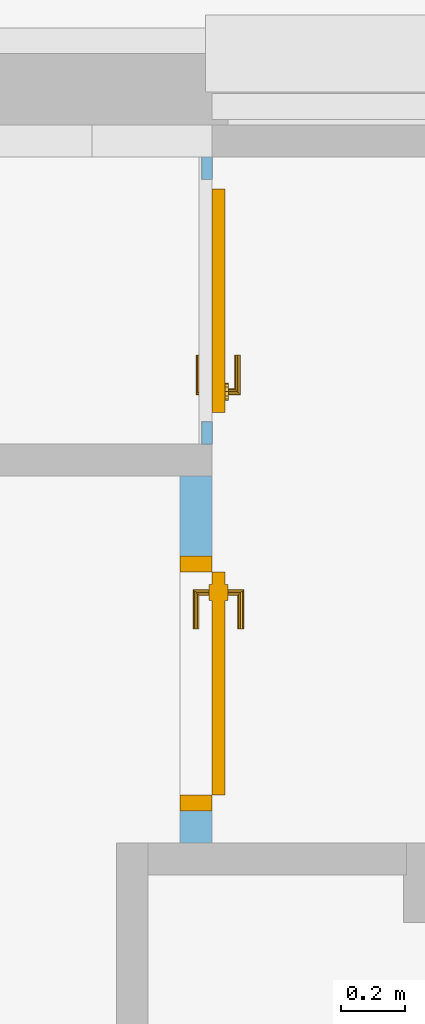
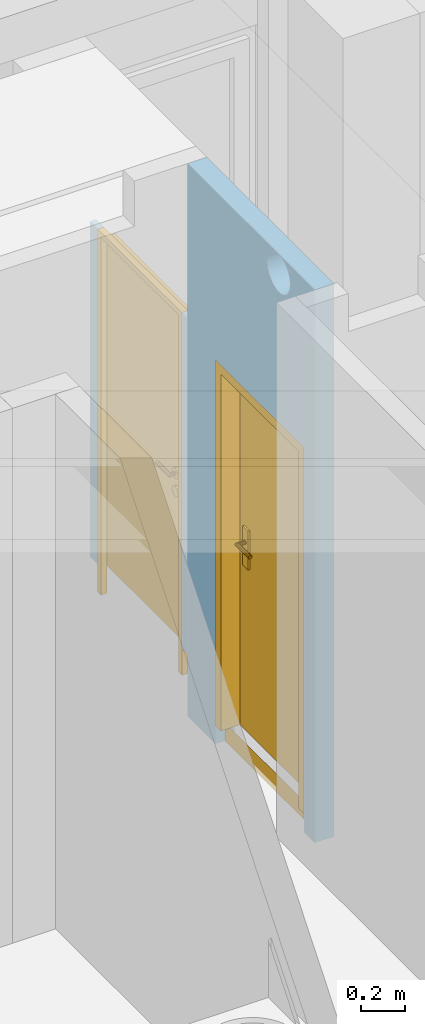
# One storey, part 66 of 84: 2 doors, 3 openings, plus 2 elements that do not belong to this part.
"""IFC4 building model written with IfcOpenShell, lengths in metres."""

from ifc_helpers import new_model, entity, si_unit, converted_unit, derived_unit, frame, frame_2d, origin, origin_with_axes, place, context, subcontext, project, spatial, polyline, rectangle, outline, extrude, closed_shell, open_shell, surface_model, source, transform, mapped, material, layer, layer_set, layer_usage, type_object, element, fill, save


model = new_model("IFC4")

# Units and contexts
model_context = context("Model", 3, precision=1e-05, world=origin())
body_context = subcontext(model_context, "Body", "Model", "MODEL_VIEW")
ifc_project = project(units=[si_unit("LENGTHUNIT", "METRE"), si_unit("AREAUNIT", "SQUARE_METRE"), si_unit("VOLUMEUNIT", "CUBIC_METRE"), si_unit("MASSUNIT", "GRAM", prefix="KILO"), converted_unit("PLANEANGLEUNIT", "DEGREE", entity("IfcPlaneAngleMeasure", 0.0174532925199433), si_unit("PLANEANGLEUNIT", "RADIAN"), dimensions=[0, 0, 0, 0, 0, 0, 0]), derived_unit("THERMALTRANSMITTANCEUNIT", [(si_unit("POWERUNIT", "WATT"), 1), (si_unit("THERMODYNAMICTEMPERATUREUNIT", "KELVIN"), -1), (si_unit("LENGTHUNIT", "METRE"), -2)]), derived_unit("VOLUMETRICFLOWRATEUNIT", [(si_unit("LENGTHUNIT", "METRE"), 3), (converted_unit("TIMEUNIT", "hour", entity("IfcTimeMeasure", 3600.0), si_unit("TIMEUNIT", "SECOND"), dimensions=[0, 0, 1, 0, 0, 0, 0]), -1), (si_unit("LENGTHUNIT", "METRE"), -1)])], contexts=[model_context])

# Site, building, storey
site_placement = place(None, origin())
site = spatial("IfcSite", under=ifc_project, at=site_placement, Name="3. ASŘ", CompositionType="ELEMENT")
building_placement = place(site_placement, origin())
building = spatial("IfcBuilding", under=site, at=building_placement, Name="Pavilon C", CompositionType="ELEMENT")
storey_placement = place(building_placement, frame((0.0, 0.0, -3.3)))
storey = spatial("IfcBuildingStorey", under=building, at=storey_placement, Name="Půdorys 1.PP", CompositionType="ELEMENT", Elevation=-3.3)

# Wall, opening, door
ifc_material_1 = material()
ifc_layer_1 = layer(ifc_material_1, 0.032)
ifc_layer_set_1 = layer_set([ifc_layer_1])
ifc_layer_usage_1 = layer_usage(ifc_layer_set_1, "AXIS2", "POSITIVE", 0.0)
wall_1_placement = place(storey_placement, frame((22.8, 14.0, 0.15), z_axis=(0.0, 0.0, 1.0), x_axis=(0.0, 1.0, 0.0)))
wall_1 = element("IfcWall", 1, at=wall_1_placement, inside=storey, material=ifc_layer_usage_1, Name="SANITARNÍ PŘÍČKA", context=body_context, shape_type="SweptSolid", body=[
    extrude(rectangle(XDim=0.9, YDim=0.032, at=frame_2d((0.45, 0.016), x_axis=(1.0, 0.0))), origin_with_axes(), (0.0, 0.0, 1.0), 1.85),
])
opening_1_placement = place(wall_1_placement, frame((0.0699999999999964, 0.0, -0.15), z_axis=(0.0, 1.0, 0.0), x_axis=(0.0, 0.0, 1.0)))
opening_1 = element("IfcOpeningElement", 2, at=opening_1_placement, cuts=wall_1, Name="Dveřní otvor", ObjectType="Opening", context=body_context, shape_type="SweptSolid", body=[
    extrude(outline(polyline([(0.0, 0.76), (2.0, 0.76), (2.0, 0.0), (0.0, 0.0), (0.0, 0.76)])), origin_with_axes(), (0.0, 0.0, 1.0), 0.032),
])
door_type_1 = type_object("IfcDoorType", Name="SMT", OperationType="NOTDEFINED", ParameterTakesPrecedence=False, PredefinedType="DOOR")
shared_shape_1 = source(origin_with_axes(), body_context, "Body", "SurfaceModel", [
    surface_model("IfcShellBasedSurfaceModel", [(0.0, 0.122, 2.0), (0.0, 0.122, -1.95943487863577e-18), (0.03, 0.122, -1.95943487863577e-18), (0.03, 0.122, 2.0), (0.0, 0.0899999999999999, 1.95943487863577e-18), (0.0, 0.0900000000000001, 2.0), (0.03, 0.0900000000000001, 2.0), (0.03, 0.0899999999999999, 1.95943487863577e-18)], [closed_shell([[[0, 1, 2, 3]], [[4, 5, 6, 7]], [[1, 0, 5, 4]], [[2, 1, 4, 7]], [[3, 2, 7, 6]], [[0, 3, 6, 5]]], orient=[[False], [False], [False], [False], [False], [False]])]),
    surface_model("IfcShellBasedSurfaceModel", [(0.73, 0.122, 2.0), (0.73, 0.122, -1.95943487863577e-18), (0.76, 0.122, -1.95943487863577e-18), (0.76, 0.122, 2.0), (0.73, 0.0899999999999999, 1.95943487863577e-18), (0.73, 0.0900000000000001, 2.0), (0.76, 0.0900000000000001, 2.0), (0.76, 0.0899999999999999, 1.95943487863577e-18)], [closed_shell([[[0, 1, 2, 3]], [[4, 5, 6, 7]], [[1, 0, 5, 4]], [[2, 1, 4, 7]], [[3, 2, 7, 6]], [[0, 3, 6, 5]]], orient=[[False], [False], [False], [False], [False], [False]])]),
    surface_model("IfcShellBasedSurfaceModel", [(0.03, 0.122, 2.0), (0.03, 0.122, 1.97), (0.73, 0.122, 1.97), (0.73, 0.122, 2.0), (0.03, 0.0900000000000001, 1.97), (0.03, 0.0900000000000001, 2.0), (0.73, 0.0900000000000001, 2.0), (0.73, 0.0900000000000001, 1.97)], [closed_shell([[[0, 1, 2, 3]], [[4, 5, 6, 7]], [[1, 0, 5, 4]], [[2, 1, 4, 7]], [[3, 2, 7, 6]], [[0, 3, 6, 5]]], orient=[[False], [False], [False], [False], [False], [False]])]),
    surface_model("IfcShellBasedSurfaceModel", [(0.03, 0.0900000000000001, 1.97), (0.03, 0.0899999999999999, 0.15), (0.73, 0.0899999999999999, 0.15), (0.73, 0.0900000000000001, 1.97), (0.03, 0.0499999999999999, 0.15), (0.03, 0.0500000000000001, 1.97), (0.73, 0.0500000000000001, 1.97), (0.73, 0.0499999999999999, 0.15)], [closed_shell([[[0, 1, 2, 3]], [[4, 5, 6, 7]], [[1, 0, 5, 4]], [[2, 1, 4, 7]], [[3, 2, 7, 6]], [[0, 3, 6, 5]]], orient=[[False], [False], [False], [False], [False], [False]])]),
    surface_model("IfcShellBasedSurfaceModel", [(0.688815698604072, 0.05, 0.93625), (0.6925, 0.05, 0.95), (0.688815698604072, 0.05, 0.96375), (0.67875, 0.05, 0.973815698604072), (0.665, 0.05, 0.9775), (0.65125, 0.05, 0.973815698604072), (0.641184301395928, 0.05, 0.96375), (0.6375, 0.05, 0.95), (0.641184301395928, 0.05, 0.93625), (0.65125, 0.05, 0.926184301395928), (0.665, 0.05, 0.9225), (0.67875, 0.05, 0.926184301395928), (0.6925, 0.0375, 0.95), (0.688815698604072, 0.0375, 0.93625), (0.67875, 0.0375, 0.926184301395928), (0.665, 0.0375, 0.9225), (0.65125, 0.0375, 0.926184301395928), (0.641184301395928, 0.0375, 0.93625), (0.6375, 0.0375, 0.95), (0.641184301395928, 0.0375, 0.96375), (0.65125, 0.0375, 0.973815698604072), (0.665, 0.0375, 0.9775), (0.67875, 0.0375, 0.973815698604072), (0.688815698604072, 0.0375, 0.96375)], [closed_shell([[[0, 1, 2, 3, 4, 5, 6, 7, 8, 9, 10, 11]], [[12, 13, 14, 15, 16, 17, 18, 19, 20, 21, 22, 23]], [[1, 0, 13, 12]], [[2, 1, 12, 23]], [[3, 2, 23, 22]], [[4, 3, 22, 21]], [[5, 4, 21, 20]], [[6, 5, 20, 19]], [[7, 6, 19, 18]], [[8, 7, 18, 17]], [[9, 8, 17, 16]], [[10, 9, 16, 15]], [[11, 10, 15, 14]], [[0, 11, 14, 13]]], orient=[[False], [False], [False], [False], [False], [False], [False], [False], [False], [False], [False], [False], [False], [False]])]),
    surface_model("IfcShellBasedSurfaceModel", [(0.688815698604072, 0.05, 1.03625), (0.6925, 0.05, 1.05), (0.688815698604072, 0.05, 1.06375), (0.67875, 0.05, 1.07381569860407), (0.665, 0.05, 1.0775), (0.65125, 0.05, 1.07381569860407), (0.641184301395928, 0.05, 1.06375), (0.6375, 0.05, 1.05), (0.641184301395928, 0.05, 1.03625), (0.65125, 0.05, 1.02618430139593), (0.665, 0.05, 1.0225), (0.67875, 0.05, 1.02618430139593), (0.6925, 0.0375, 1.05), (0.688815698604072, 0.0375, 1.03625), (0.67875, 0.0375, 1.02618430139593), (0.665, 0.0375, 1.0225), (0.65125, 0.0375, 1.02618430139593), (0.641184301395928, 0.0375, 1.03625), (0.6375, 0.0375, 1.05), (0.641184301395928, 0.0375, 1.06375), (0.65125, 0.0375, 1.07381569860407), (0.665, 0.0375, 1.0775), (0.67875, 0.0375, 1.07381569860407), (0.688815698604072, 0.0375, 1.06375)], [closed_shell([[[0, 1, 2, 3, 4, 5, 6, 7, 8, 9, 10, 11]], [[12, 13, 14, 15, 16, 17, 18, 19, 20, 21, 22, 23]], [[1, 0, 13, 12]], [[2, 1, 12, 23]], [[3, 2, 23, 22]], [[4, 3, 22, 21]], [[5, 4, 21, 20]], [[6, 5, 20, 19]], [[7, 6, 19, 18]], [[8, 7, 18, 17]], [[9, 8, 17, 16]], [[10, 9, 16, 15]], [[11, 10, 15, 14]], [[0, 11, 14, 13]]], orient=[[False], [False], [False], [False], [False], [False], [False], [False], [False], [False], [False], [False], [False], [False]])]),
    surface_model("IfcShellBasedSurfaceModel", [(0.665, 0.05, 1.06), (0.66, 0.05, 1.05866025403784), (0.656339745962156, 0.05, 1.055), (0.655, 0.05, 1.05), (0.656339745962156, 0.05, 1.045), (0.66, 0.05, 1.04133974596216), (0.665, 0.05, 1.04), (0.67, 0.05, 1.04133974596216), (0.673660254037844, 0.05, 1.045), (0.675, 0.05, 1.05), (0.673660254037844, 0.05, 1.055), (0.67, 0.05, 1.05866025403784), (0.67, 0.005, 1.05866025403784), (0.665, 0.01, 1.06), (0.673660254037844, 0.00133974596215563, 1.055), (0.675, 1.4210854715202e-17, 1.05), (0.673660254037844, 0.00133974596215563, 1.045), (0.67, 0.005, 1.04133974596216), (0.665, 0.01, 1.04), (0.66, 0.015, 1.04133974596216), (0.656339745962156, 0.0186602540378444, 1.045), (0.655, 0.02, 1.05), (0.656339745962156, 0.0186602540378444, 1.055), (0.66, 0.015, 1.05866025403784), (0.55, 0.005, 1.05866025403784), (0.55, 0.01, 1.06), (0.55, 0.00133974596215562, 1.055), (0.55, 0.0, 1.05), (0.55, 0.00133974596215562, 1.045), (0.55, 0.005, 1.04133974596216), (0.55, 0.01, 1.04), (0.55, 0.015, 1.04133974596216), (0.55, 0.0186602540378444, 1.045), (0.55, 0.02, 1.05), (0.55, 0.0186602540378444, 1.055), (0.55, 0.015, 1.05866025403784)], [open_shell([[[0, 1, 2, 3, 4, 5, 6, 7, 8, 9, 10, 11]], [[0, 11, 12, 13]], [[11, 10, 14, 12]], [[10, 9, 15, 14]], [[9, 8, 16, 15]], [[8, 7, 17, 16]], [[7, 6, 18, 17]], [[6, 5, 19, 18]], [[5, 4, 20, 19]], [[4, 3, 21, 20]], [[3, 2, 22, 21]], [[2, 1, 23, 22]], [[1, 0, 13, 23]], [[13, 12, 24, 25]], [[12, 14, 26, 24]], [[14, 15, 27, 26]], [[15, 16, 28, 27]], [[16, 17, 29, 28]], [[17, 18, 30, 29]], [[18, 19, 31, 30]], [[19, 20, 32, 31]], [[20, 21, 33, 32]], [[21, 22, 34, 33]], [[22, 23, 35, 34]], [[23, 13, 25, 35]]], orient=[[False], [False], [False], [False], [False], [False], [False], [False], [False], [False], [False], [False], [False], [False], [False], [False], [False], [False], [False], [False], [False], [False], [False], [False], [False]])]),
    surface_model("IfcShellBasedSurfaceModel", [(0.688815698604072, 0.09, 0.93625), (0.67875, 0.09, 0.926184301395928), (0.665, 0.09, 0.9225), (0.65125, 0.09, 0.926184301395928), (0.641184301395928, 0.09, 0.93625), (0.6375, 0.09, 0.95), (0.641184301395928, 0.09, 0.96375), (0.65125, 0.09, 0.973815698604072), (0.665, 0.09, 0.9775), (0.67875, 0.09, 0.973815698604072), (0.688815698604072, 0.09, 0.96375), (0.6925, 0.09, 0.95), (0.6925, 0.1025, 0.95), (0.688815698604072, 0.1025, 0.96375), (0.67875, 0.1025, 0.973815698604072), (0.665, 0.1025, 0.9775), (0.65125, 0.1025, 0.973815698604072), (0.641184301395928, 0.1025, 0.96375), (0.6375, 0.1025, 0.95), (0.641184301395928, 0.1025, 0.93625), (0.65125, 0.1025, 0.926184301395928), (0.665, 0.1025, 0.9225), (0.67875, 0.1025, 0.926184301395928), (0.688815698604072, 0.1025, 0.93625)], [closed_shell([[[0, 1, 2, 3, 4, 5, 6, 7, 8, 9, 10, 11]], [[12, 13, 14, 15, 16, 17, 18, 19, 20, 21, 22, 23]], [[11, 12, 23, 0]], [[10, 13, 12, 11]], [[9, 14, 13, 10]], [[8, 15, 14, 9]], [[7, 16, 15, 8]], [[6, 17, 16, 7]], [[5, 18, 17, 6]], [[4, 19, 18, 5]], [[3, 20, 19, 4]], [[2, 21, 20, 3]], [[1, 22, 21, 2]], [[0, 23, 22, 1]]], orient=[[False], [False], [False], [False], [False], [False], [False], [False], [False], [False], [False], [False], [False], [False]])]),
    surface_model("IfcShellBasedSurfaceModel", [(0.688815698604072, 0.09, 1.03625), (0.67875, 0.09, 1.02618430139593), (0.665, 0.09, 1.0225), (0.65125, 0.09, 1.02618430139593), (0.641184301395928, 0.09, 1.03625), (0.6375, 0.09, 1.05), (0.641184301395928, 0.09, 1.06375), (0.65125, 0.09, 1.07381569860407), (0.665, 0.09, 1.0775), (0.67875, 0.09, 1.07381569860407), (0.688815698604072, 0.09, 1.06375), (0.6925, 0.09, 1.05), (0.6925, 0.1025, 1.05), (0.688815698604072, 0.1025, 1.06375), (0.67875, 0.1025, 1.07381569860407), (0.665, 0.1025, 1.0775), (0.65125, 0.1025, 1.07381569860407), (0.641184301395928, 0.1025, 1.06375), (0.6375, 0.1025, 1.05), (0.641184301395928, 0.1025, 1.03625), (0.65125, 0.1025, 1.02618430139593), (0.665, 0.1025, 1.0225), (0.67875, 0.1025, 1.02618430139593), (0.688815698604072, 0.1025, 1.03625)], [closed_shell([[[0, 1, 2, 3, 4, 5, 6, 7, 8, 9, 10, 11]], [[12, 13, 14, 15, 16, 17, 18, 19, 20, 21, 22, 23]], [[11, 12, 23, 0]], [[10, 13, 12, 11]], [[9, 14, 13, 10]], [[8, 15, 14, 9]], [[7, 16, 15, 8]], [[6, 17, 16, 7]], [[5, 18, 17, 6]], [[4, 19, 18, 5]], [[3, 20, 19, 4]], [[2, 21, 20, 3]], [[1, 22, 21, 2]], [[0, 23, 22, 1]]], orient=[[False], [False], [False], [False], [False], [False], [False], [False], [False], [False], [False], [False], [False], [False]])]),
    surface_model("IfcShellBasedSurfaceModel", [(0.665, 0.09, 1.06), (0.67, 0.09, 1.05866025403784), (0.673660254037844, 0.09, 1.055), (0.675, 0.09, 1.05), (0.673660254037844, 0.09, 1.045), (0.67, 0.09, 1.04133974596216), (0.665, 0.09, 1.04), (0.66, 0.09, 1.04133974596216), (0.656339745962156, 0.09, 1.045), (0.655, 0.09, 1.05), (0.656339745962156, 0.09, 1.055), (0.66, 0.09, 1.05866025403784), (0.665, 0.13, 1.06), (0.67, 0.135, 1.05866025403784), (0.673660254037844, 0.138660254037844, 1.055), (0.675, 0.14, 1.05), (0.673660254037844, 0.138660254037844, 1.045), (0.67, 0.135, 1.04133974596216), (0.665, 0.13, 1.04), (0.66, 0.125, 1.04133974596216), (0.656339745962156, 0.121339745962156, 1.045), (0.655, 0.12, 1.05), (0.656339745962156, 0.121339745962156, 1.055), (0.66, 0.125, 1.05866025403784), (0.55, 0.13, 1.06), (0.55, 0.135, 1.05866025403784), (0.55, 0.138660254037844, 1.055), (0.55, 0.14, 1.05), (0.55, 0.138660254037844, 1.045), (0.55, 0.135, 1.04133974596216), (0.55, 0.13, 1.04), (0.55, 0.125, 1.04133974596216), (0.55, 0.121339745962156, 1.045), (0.55, 0.12, 1.05), (0.55, 0.121339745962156, 1.055), (0.55, 0.125, 1.05866025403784)], [open_shell([[[0, 1, 2, 3, 4, 5, 6, 7, 8, 9, 10, 11]], [[0, 12, 13, 1]], [[1, 13, 14, 2]], [[2, 14, 15, 3]], [[3, 15, 16, 4]], [[4, 16, 17, 5]], [[5, 17, 18, 6]], [[6, 18, 19, 7]], [[7, 19, 20, 8]], [[8, 20, 21, 9]], [[9, 21, 22, 10]], [[10, 22, 23, 11]], [[11, 23, 12, 0]], [[12, 24, 25, 13]], [[13, 25, 26, 14]], [[14, 26, 27, 15]], [[15, 27, 28, 16]], [[16, 28, 29, 17]], [[17, 29, 30, 18]], [[18, 30, 31, 19]], [[19, 31, 32, 20]], [[20, 32, 33, 21]], [[21, 33, 34, 22]], [[22, 34, 35, 23]], [[23, 35, 24, 12]]], orient=[[False], [False], [False], [False], [False], [False], [False], [False], [False], [False], [False], [False], [False], [False], [False], [False], [False], [False], [False], [False], [False], [False], [False], [False], [False]])]),
])
door_1_placement = place(opening_1_placement, frame((0.0, 0.759999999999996, -0.0899999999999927), z_axis=(1.0, 0.0, 0.0), x_axis=(0.0, -1.0, 1.22464679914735e-16)))
door_1 = element("IfcDoor", 3, at=door_1_placement, inside=storey, type_object=door_type_1, Name="SMT", OverallHeight=2.0, OverallWidth=0.76, context=body_context, shape_type="MappedRepresentation", body=[
    mapped(shared_shape_1, transform((0.0, 0.0, 0.0), x_axis=(1.0, 0.0, 0.0), y_axis=(0.0, -1.0, 0.0), z_axis=(0.0, 0.0, 1.0), scale=1.0)),
])
fill(opening_1, door_1)

# Wall, openings, door
ifc_material_2 = material(Name="SDK - 1 KCE + DVOJITÉ OPLÁŠTĚNÍ")
ifc_layer_2 = layer(ifc_material_2, 0.1)
ifc_layer_set_2 = layer_set([ifc_layer_2])
ifc_layer_usage_2 = layer_usage(ifc_layer_set_2, "AXIS2", "POSITIVE", 0.0)
wall_2_placement = place(storey_placement, frame((22.7, 13.9, -0.1), z_axis=(0.0, 0.0, 1.0), x_axis=(0.0, -1.0, 0.0)))
wall_2 = element("IfcWall", 4, at=wall_2_placement, inside=storey, material=ifc_layer_usage_2, Name="SDK - 1 KCE + DVOJITÉ OPLÁŠTĚNÍ", context=body_context, shape_type="SweptSolid", body=[
    extrude(rectangle(XDim=1.15, YDim=0.1, at=frame_2d((0.574999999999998, 0.05), x_axis=(1.0, 0.0))), origin_with_axes(), (0.0, 0.0, 1.0), 3.05),
])
opening_2_placement = place(wall_2_placement, frame((1.05, 0.1, 0.0), z_axis=(0.0, -1.0, 0.0), x_axis=(0.0, 0.0, 1.0)))
opening_2 = element("IfcOpeningElement", 5, at=opening_2_placement, cuts=wall_2, Name="Dveřní otvor", ObjectType="Opening", context=body_context, shape_type="SweptSolid", body=[
    extrude(outline(polyline([(0.0, 0.8), (2.12, 0.8), (2.12, 0.0), (0.0, 0.0), (0.0, 0.8)])), origin_with_axes(), (0.0, 0.0, 1.0), 0.1),
])
opening_3_placement = place(wall_2_placement, frame((0.718690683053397, 0.0, 2.84), z_axis=(0.0, 1.0, 0.0), x_axis=(0.0, 0.0, 1.0)))
element("IfcOpeningElement", 6, at=opening_3_placement, cuts=wall_2, Name="VZT", ObjectType="Opening", context=body_context, shape_type="SweptSolid", body=[
    extrude(outline(polyline([(0.10499997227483, 0.0), (0.0940244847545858, 0.000575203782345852), (0.0831692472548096, 0.00229450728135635), (0.072553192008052, 0.00513907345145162), (0.0622926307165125, 0.00907773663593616), (0.0524999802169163, 0.0140673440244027), (0.043282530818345, 0.0200532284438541), (0.0347412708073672, 0.0269698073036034), (0.0269697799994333, 0.0347413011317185), (0.0200532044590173, 0.0432825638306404), (0.0140673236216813, 0.0525000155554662), (0.00907772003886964, 0.0622926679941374), (0.00513906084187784, 0.0725532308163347), (0.00229449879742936, 0.0831692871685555), (0.000575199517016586, 0.0940245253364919), (0.0, 0.105000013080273), (0.000575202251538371, 0.115975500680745), (0.00229450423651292, 0.12683073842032), (0.00513906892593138, 0.137446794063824), (0.00907773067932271, 0.147707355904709), (0.0140673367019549, 0.157500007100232), (0.0200532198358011, 0.166717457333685), (0.0269697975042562, 0.175258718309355), (0.0347412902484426, 0.183030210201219), (0.0432825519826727, 0.189946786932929), (0.0525000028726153, 0.195932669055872), (0.0622926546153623, 0.200922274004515), (0.072553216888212, 0.204860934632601), (0.0831692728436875, 0.207705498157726), (0.0940245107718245, 0.209424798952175), (0.104999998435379, 0.21), (0.115975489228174, 0.209424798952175), (0.126830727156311, 0.207705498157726), (0.137446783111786, 0.204860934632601), (0.147707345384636, 0.200922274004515), (0.157499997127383, 0.195932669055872), (0.166717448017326, 0.189946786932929), (0.175258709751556, 0.183030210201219), (0.183030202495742, 0.175258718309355), (0.189946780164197, 0.166717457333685), (0.195932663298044, 0.157500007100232), (0.200922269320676, 0.147707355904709), (0.204860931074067, 0.137446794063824), (0.207705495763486, 0.12683073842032), (0.20942479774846, 0.115975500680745), (0.209999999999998, 0.105000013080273), (0.209424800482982, 0.0940245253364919), (0.207705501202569, 0.0831692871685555), (0.204860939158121, 0.0725532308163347), (0.200922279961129, 0.0622926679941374), (0.195932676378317, 0.0525000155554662), (0.189946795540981, 0.0432825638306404), (0.183030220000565, 0.0347413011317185), (0.175258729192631, 0.0269698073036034), (0.166717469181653, 0.0200532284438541), (0.157500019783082, 0.0140673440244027), (0.147707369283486, 0.00907773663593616), (0.137446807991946, 0.00513907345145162), (0.126830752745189, 0.00229450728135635), (0.115975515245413, 0.000575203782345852), (0.10499997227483, 0.0)])), origin_with_axes(), (0.0, 0.0, 1.0), 0.1),
])
door_type_2 = type_object("IfcDoorType", Name="I.D011", OperationType="NOTDEFINED", ParameterTakesPrecedence=False, PredefinedType="DOOR")
shared_shape_2 = source(origin_with_axes(), body_context, "Body", "SurfaceModel", [
    surface_model("IfcShellBasedSurfaceModel", [(0.0, 0.05, 0.0), (0.8, 0.05, 0.0), (0.8, 0.05, 0.1), (0.0, 0.05, 0.1)], [open_shell([[[0, 1, 2, 3]]], orient=[[False]])]),
    surface_model("IfcShellBasedSurfaceModel", [(0.0, 0.1, 2.12), (0.0, 0.1, 0.101), (0.05, 0.1, 0.101), (0.05, 0.1, 2.12), (0.0, 0.0, 0.101), (0.0, 2.41584530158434e-16, 2.12), (0.05, 2.41584530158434e-16, 2.12), (0.05, 0.0, 0.101)], [closed_shell([[[0, 1, 2, 3]], [[4, 5, 6, 7]], [[1, 0, 5, 4]], [[2, 1, 4, 7]], [[3, 2, 7, 6]], [[0, 3, 6, 5]]], orient=[[False], [False], [False], [False], [False], [False]])]),
    surface_model("IfcShellBasedSurfaceModel", [(0.75, 0.1, 2.12), (0.75, 0.1, 0.101), (0.8, 0.1, 0.101), (0.8, 0.1, 2.12), (0.75, 0.0, 0.101), (0.75, 2.41584530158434e-16, 2.12), (0.8, 2.41584530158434e-16, 2.12), (0.8, 0.0, 0.101)], [closed_shell([[[0, 1, 2, 3]], [[4, 5, 6, 7]], [[1, 0, 5, 4]], [[2, 1, 4, 7]], [[3, 2, 7, 6]], [[0, 3, 6, 5]]], orient=[[False], [False], [False], [False], [False], [False]])]),
    surface_model("IfcShellBasedSurfaceModel", [(0.05, 0.1, 2.12), (0.05, 0.1, 2.07), (0.75, 0.1, 2.07), (0.75, 0.1, 2.12), (0.05, 2.41584530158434e-16, 2.07), (0.05, 2.41584530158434e-16, 2.12), (0.75, 2.41584530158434e-16, 2.12), (0.75, 2.41584530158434e-16, 2.07)], [closed_shell([[[0, 1, 2, 3]], [[4, 5, 6, 7]], [[1, 0, 5, 4]], [[2, 1, 4, 7]], [[3, 2, 7, 6]], [[0, 3, 6, 5]]], orient=[[False], [False], [False], [False], [False], [False]])]),
    surface_model("IfcShellBasedSurfaceModel", [(0.05, 0.14, 2.07), (0.05, 0.14, 0.101), (0.75, 0.14, 0.101), (0.75, 0.14, 2.07), (0.05, 0.1, 0.101), (0.05, 0.1, 2.07), (0.75, 0.1, 2.07), (0.75, 0.1, 0.101)], [closed_shell([[[0, 1, 2, 3]], [[4, 5, 6, 7]], [[1, 0, 5, 4]], [[2, 1, 4, 7]], [[3, 2, 7, 6]], [[0, 3, 6, 5]]], orient=[[False], [False], [False], [False], [False], [False]])]),
    surface_model("IfcShellBasedSurfaceModel", [(0.09, 0.1, 1.226), (0.09, 0.1, 1.011), (0.14, 0.1, 1.011), (0.14, 0.1, 1.226), (0.09, 0.0900000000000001, 1.011), (0.09, 0.0900000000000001, 1.226), (0.14, 0.0900000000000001, 1.226), (0.14, 0.0900000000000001, 1.011)], [closed_shell([[[0, 1, 2, 3]], [[4, 5, 6, 7]], [[1, 0, 5, 4]], [[2, 1, 4, 7]], [[3, 2, 7, 6]], [[0, 3, 6, 5]]], orient=[[False], [False], [False], [False], [False], [False]])]),
    surface_model("IfcShellBasedSurfaceModel", [(0.115, 0.0900000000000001, 1.161), (0.11, 0.0900000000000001, 1.15966025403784), (0.106339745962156, 0.0900000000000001, 1.156), (0.105, 0.0900000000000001, 1.151), (0.106339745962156, 0.0900000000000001, 1.146), (0.11, 0.0900000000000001, 1.14233974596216), (0.115, 0.0900000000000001, 1.141), (0.12, 0.0900000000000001, 1.14233974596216), (0.123660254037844, 0.0900000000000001, 1.146), (0.125, 0.0900000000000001, 1.151), (0.123660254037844, 0.0900000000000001, 1.156), (0.12, 0.0900000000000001, 1.15966025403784), (0.115, 0.0500000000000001, 1.161), (0.11, 0.0450000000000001, 1.15966025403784), (0.106339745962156, 0.0413397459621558, 1.156), (0.105, 0.0400000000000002, 1.151), (0.106339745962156, 0.0413397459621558, 1.146), (0.11, 0.0450000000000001, 1.14233974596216), (0.115, 0.0500000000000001, 1.141), (0.12, 0.0550000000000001, 1.14233974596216), (0.123660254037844, 0.0586602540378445, 1.146), (0.125, 0.0600000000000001, 1.151), (0.123660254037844, 0.0586602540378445, 1.156), (0.12, 0.0550000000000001, 1.15966025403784), (0.23, 0.0500000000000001, 1.161), (0.23, 0.0450000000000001, 1.15966025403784), (0.23, 0.0413397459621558, 1.156), (0.23, 0.0400000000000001, 1.151), (0.23, 0.0413397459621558, 1.146), (0.23, 0.0450000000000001, 1.14233974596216), (0.23, 0.0500000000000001, 1.141), (0.23, 0.0550000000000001, 1.14233974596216), (0.23, 0.0586602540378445, 1.146), (0.23, 0.0600000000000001, 1.151), (0.23, 0.0586602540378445, 1.156), (0.23, 0.0550000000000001, 1.15966025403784)], [open_shell([[[0, 1, 2, 3, 4, 5, 6, 7, 8, 9, 10, 11]], [[0, 12, 13, 1]], [[1, 13, 14, 2]], [[2, 14, 15, 3]], [[3, 15, 16, 4]], [[4, 16, 17, 5]], [[5, 17, 18, 6]], [[6, 18, 19, 7]], [[7, 19, 20, 8]], [[8, 20, 21, 9]], [[9, 21, 22, 10]], [[10, 22, 23, 11]], [[11, 23, 12, 0]], [[12, 24, 25, 13]], [[13, 25, 26, 14]], [[14, 26, 27, 15]], [[15, 27, 28, 16]], [[16, 28, 29, 17]], [[17, 29, 30, 18]], [[18, 30, 31, 19]], [[19, 31, 32, 20]], [[20, 32, 33, 21]], [[21, 33, 34, 22]], [[22, 34, 35, 23]], [[23, 35, 24, 12]]], orient=[[False], [False], [False], [False], [False], [False], [False], [False], [False], [False], [False], [False], [False], [False], [False], [False], [False], [False], [False], [False], [False], [False], [False], [False], [False]])]),
    surface_model("IfcShellBasedSurfaceModel", [(0.09, 0.14, 1.226), (0.14, 0.14, 1.226), (0.14, 0.14, 1.011), (0.09, 0.14, 1.011), (0.09, 0.15, 1.011), (0.14, 0.15, 1.011), (0.14, 0.15, 1.226), (0.09, 0.15, 1.226)], [closed_shell([[[0, 1, 2, 3]], [[4, 5, 6, 7]], [[3, 4, 7, 0]], [[2, 5, 4, 3]], [[1, 6, 5, 2]], [[0, 7, 6, 1]]], orient=[[False], [False], [False], [False], [False], [False]])]),
    surface_model("IfcShellBasedSurfaceModel", [(0.115, 0.15, 1.161), (0.12, 0.15, 1.15966025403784), (0.123660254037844, 0.15, 1.156), (0.125, 0.15, 1.151), (0.123660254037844, 0.15, 1.146), (0.12, 0.15, 1.14233974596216), (0.115, 0.15, 1.141), (0.11, 0.15, 1.14233974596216), (0.106339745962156, 0.15, 1.146), (0.105, 0.15, 1.151), (0.106339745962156, 0.15, 1.156), (0.11, 0.15, 1.15966025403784), (0.11, 0.195, 1.15966025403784), (0.115, 0.19, 1.161), (0.106339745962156, 0.198660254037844, 1.156), (0.105, 0.2, 1.151), (0.106339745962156, 0.198660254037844, 1.146), (0.11, 0.195, 1.14233974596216), (0.115, 0.19, 1.141), (0.12, 0.185, 1.14233974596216), (0.123660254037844, 0.181339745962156, 1.146), (0.125, 0.18, 1.151), (0.123660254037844, 0.181339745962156, 1.156), (0.12, 0.185, 1.15966025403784), (0.23, 0.195, 1.15966025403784), (0.23, 0.19, 1.161), (0.23, 0.198660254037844, 1.156), (0.23, 0.2, 1.151), (0.23, 0.198660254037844, 1.146), (0.23, 0.195, 1.14233974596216), (0.23, 0.19, 1.141), (0.23, 0.185, 1.14233974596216), (0.23, 0.181339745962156, 1.146), (0.23, 0.18, 1.151), (0.23, 0.181339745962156, 1.156), (0.23, 0.185, 1.15966025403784)], [open_shell([[[0, 1, 2, 3, 4, 5, 6, 7, 8, 9, 10, 11]], [[0, 11, 12, 13]], [[11, 10, 14, 12]], [[10, 9, 15, 14]], [[9, 8, 16, 15]], [[8, 7, 17, 16]], [[7, 6, 18, 17]], [[6, 5, 19, 18]], [[5, 4, 20, 19]], [[4, 3, 21, 20]], [[3, 2, 22, 21]], [[2, 1, 23, 22]], [[1, 0, 13, 23]], [[13, 12, 24, 25]], [[12, 14, 26, 24]], [[14, 15, 27, 26]], [[15, 16, 28, 27]], [[16, 17, 29, 28]], [[17, 18, 30, 29]], [[18, 19, 31, 30]], [[19, 20, 32, 31]], [[20, 21, 33, 32]], [[21, 22, 34, 33]], [[22, 23, 35, 34]], [[23, 13, 25, 35]]], orient=[[False], [False], [False], [False], [False], [False], [False], [False], [False], [False], [False], [False], [False], [False], [False], [False], [False], [False], [False], [False], [False], [False], [False], [False], [False]])]),
])
door_2_placement = place(opening_2_placement, frame((0.0, 0.799999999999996, 0.100000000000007), z_axis=(1.0, 0.0, 0.0), x_axis=(0.0, -1.0, 2.44929359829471e-16)))
door_2 = element("IfcDoor", 7, at=door_2_placement, inside=storey, type_object=door_type_2, Name="I.D011", OverallHeight=2.12, OverallWidth=0.8, context=body_context, shape_type="MappedRepresentation", body=[
    mapped(shared_shape_2, transform((0.0, 0.0, 0.0), x_axis=(1.0, 0.0, 0.0), y_axis=(0.0, 1.0, 0.0), z_axis=(0.0, 0.0, 1.0), scale=1.0)),
])
fill(opening_2, door_2)

save(model, "model.ifc")
